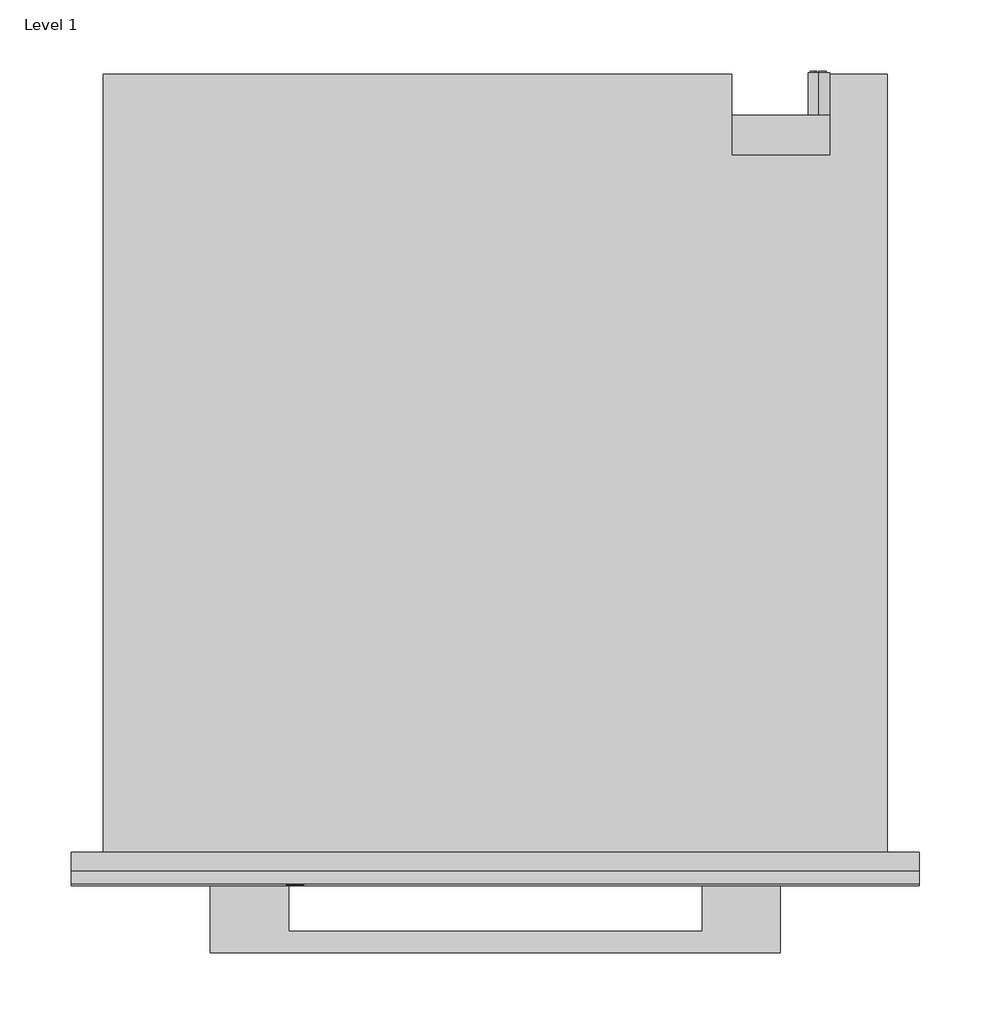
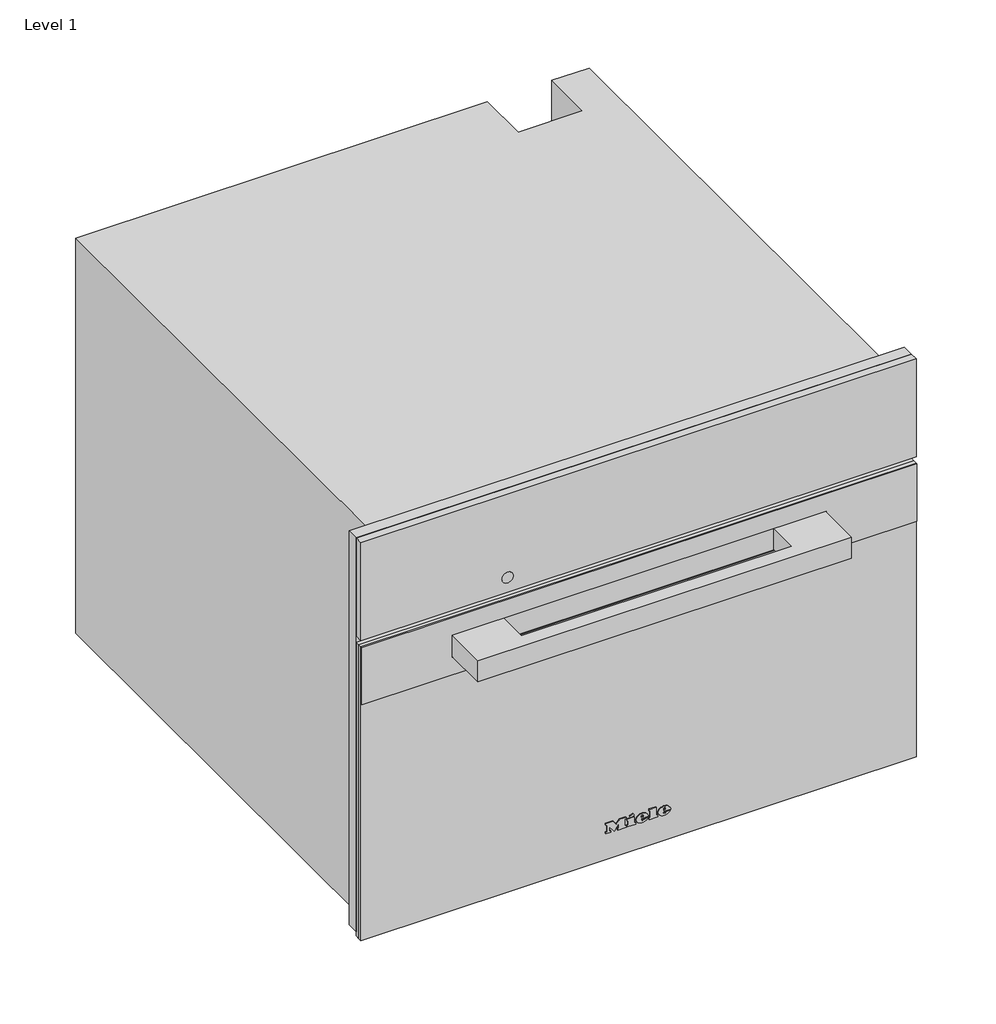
# One storey: 1 proxy.
"""IFC4 building model written with IfcOpenShell, lengths in millimetres."""

from ifc_helpers import new_model, si_unit, origin, place, context, project, spatial, transform, mapped, element, save
from components import specialty_equipment_a42e8c18

model = new_model("IFC4")

# Units and contexts
model_context = context("Model", 3, world=origin())
ifc_project = project(units=[si_unit("LENGTHUNIT", "METRE", prefix="MILLI")], contexts=[model_context])

# Site, building, storey
site = spatial("IfcSite", under=ifc_project)
building = spatial("IfcBuilding", under=site)
storey = spatial("IfcBuildingStorey", under=building, Name="Level 1", Elevation=0.0)

# Proxy
placement = place(None, origin())
specialty_equipment_shape = specialty_equipment_a42e8c18(model_context)
element("IfcBuildingElementProxy", 1, Name="11147260_J_DGC7840_EDST-CLST : 23784042_J_11147260_DGC7840_EDST-CLST", ObjectType="11147260_J_DGC7840_EDST-CLST : 23784042_J_11147260_DGC7840_EDST-CLST", at=placement, inside=storey, context=model_context, shape_type="MappedRepresentation", body=[
    mapped(specialty_equipment_shape, transform((0.0, 0.0, 0.0), x_axis=(1.0, 0.0, 0.0), y_axis=(0.0, 1.0, 0.0), z_axis=(0.0, 0.0, 1.0))),
])

save(model, "model.ifc")
